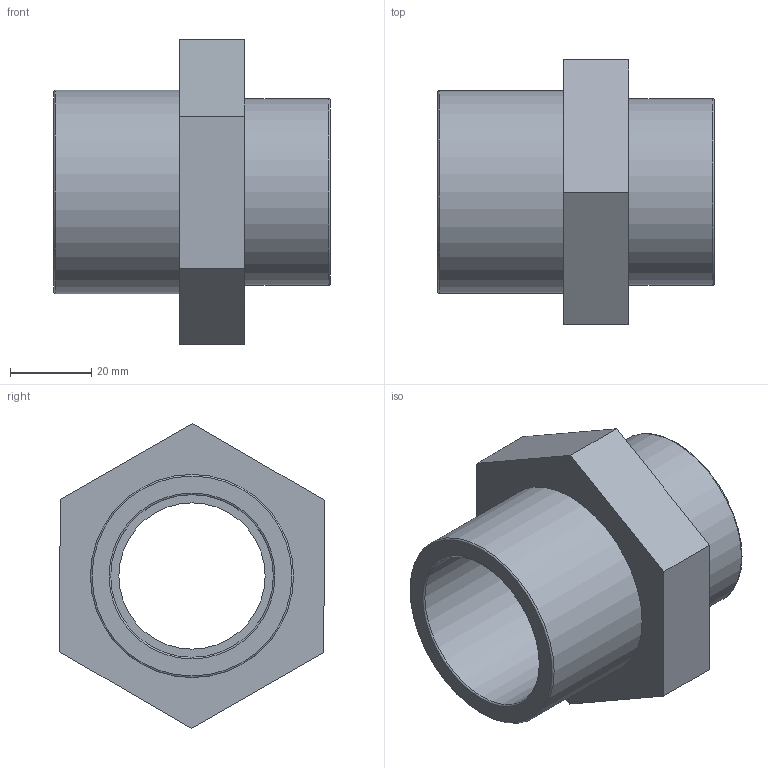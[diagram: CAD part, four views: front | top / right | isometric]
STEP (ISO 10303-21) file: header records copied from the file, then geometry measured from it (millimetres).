
FILE_DESCRIPTION(/* description */ ('PLASSON REDUCER THR-CEM PVC 50(40)1.1/4"F'),/* implementation_level */ '2;1');
FILE_NAME(/* name */ 'C:\Dropbox\KIMPROJECTS-Inventor\99-16-3568-Processing\PVC Catalog 2017\050202\050202050013.ipt.stp',/* time_stamp */ '2017-12-07T15:53:52+02:00',/* author */ ('KIM'),/* organization */ (''),/* preprocessor_version */ 'ST-DEVELOPER v15.6',/* originating_system */ 'Autodesk Inventor 2015',/* authorisation */ '');
FILE_SCHEMA (('AUTOMOTIVE_DESIGN { 1 0 10303 214 3 1 1 }'));
Length unit declared in the file: millimetre
Products named in the file (1): 050202050013
Bounding box: 68 x 65.1 x 75.06 mm (x, y, z)
Volume: 71321.7 mm3; surface area: 25112.1 mm2
Topology: 1 solids, 1 shells, 21 faces, 41 edges, 26 vertices
Faces by surface type: plane 12, cylinder 5, torus 4
Full cylindrical faces by diameter (mm): 36 x1, 38.952 x1, 40 x1, 46 x1, 50 x1
Entity records: 520 total; most frequent: DIRECTION 90, CARTESIAN_POINT 80, ORIENTED_EDGE 64, EDGE_LOOP 36, AXIS2_PLACEMENT_3D 36, EDGE_CURVE 32, VERTEX_POINT 26, FACE_OUTER_BOUND 21
